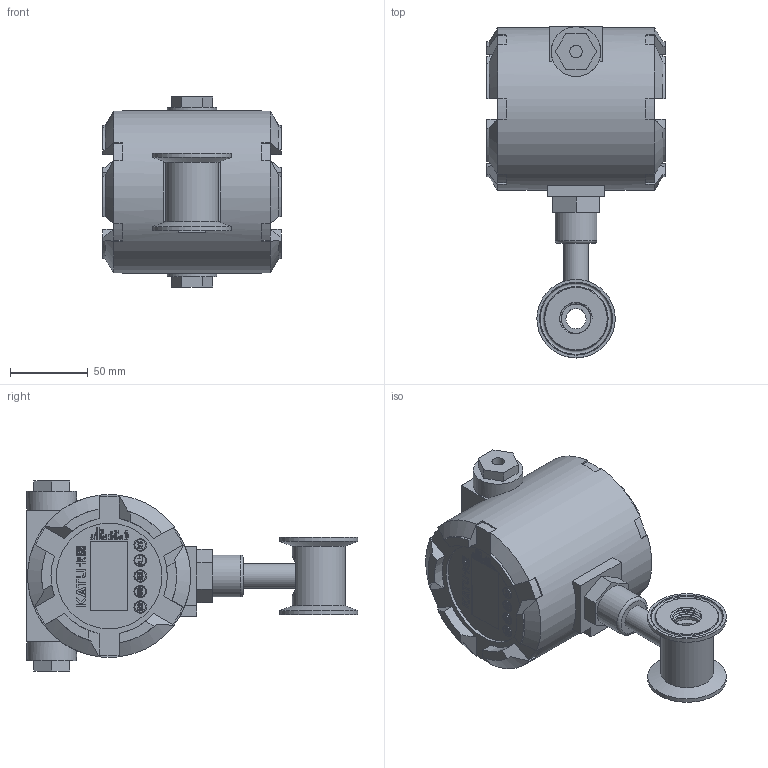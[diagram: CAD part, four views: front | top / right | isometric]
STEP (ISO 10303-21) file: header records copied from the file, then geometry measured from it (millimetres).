
FILE_DESCRIPTION( (''), '2;1');
FILE_NAME( 'QTKC_DN12_tri-clamp_Ex.step', '2024-10-14T11:53:58+08:00', (''), (''), '', '', '');
FILE_SCHEMA (('AUTOMOTIVE_DESIGN { 1 0 10303 214 3 1 1 1 }'));
Length unit declared in the file: millimetre
Products named in the file (1): QTKC DN12_tri-clamp_Ex
Bounding box: 115 x 213.75 x 122.4 mm (x, y, z)
Volume: 988459.3 mm3; surface area: 93878.4 mm2
Topology: 4 solids, 4 shells, 1344 faces, 3672 edges, 2441 vertices
Faces by surface type: plane 726, extrusion 504, cylinder 74, cone 22, torus 12, bspline 6
Full cylindrical faces by diameter (mm): 3.3 x1, 8 x2, 13 x1, 16 x1, 17 x1, 18.5 x1, 20 x2, 21 x2, 27 x1, 32 x2, 34 x1, 50.5 x2, 68 x1, 105 x1
Entity records: 48055 total; most frequent: CARTESIAN_POINT 16232, ORIENTED_EDGE 7228, DIRECTION 4873, EDGE_CURVE 3614, VECTOR 2785, VERTEX_POINT 2422, LINE 2281, B_SPLINE_CURVE_WITH_KNOTS 1628
